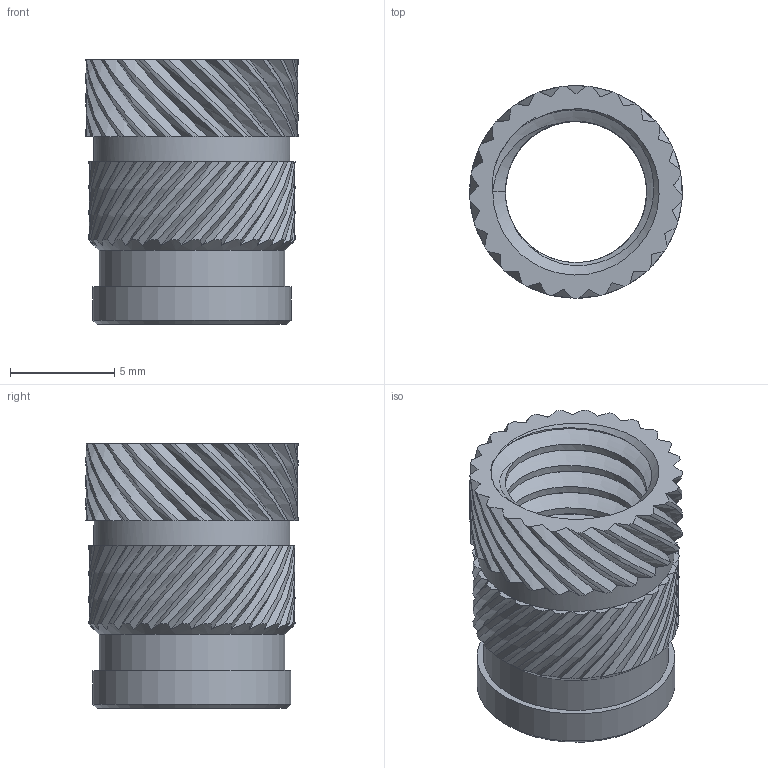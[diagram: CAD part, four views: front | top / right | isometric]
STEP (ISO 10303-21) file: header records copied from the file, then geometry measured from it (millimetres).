
FILE_DESCRIPTION(/* description */ (''),/* implementation_level */ '2;1');
FILE_NAME(/* name */ 'M8_Standard.step',/* time_stamp */ '2023-07-25T17:33:31+02:00',/* author */ (''),/* organization */ (''),/* preprocessor_version */ 'ST-DEVELOPER v19.2',/* originating_system */ 'Autodesk Translation Framework v12.6.0.85',/* authorisation */ '');
FILE_SCHEMA (('AUTOMOTIVE_DESIGN { 1 0 10303 214 3 1 1 }'));
Length unit declared in the file: millimetre
Products named in the file (1): Insert_M8
Bounding box: 10.2 x 10.2 x 12.7 mm (x, y, z)
Volume: 372.3 mm3; surface area: 1023.3 mm2
Topology: 1 solids, 12 shells, 446 faces, 1151 edges, 730 vertices
Faces by surface type: bspline 213, plane 147, cylinder 80, cone 6
Full cylindrical faces by diameter (mm): 6.779 x5, 8.17 x2, 8.9 x1, 9.4 x1, 9.5 x1
Entity records: 17892 total; most frequent: CARTESIAN_POINT 8792, ORIENTED_EDGE 2302, DIRECTION 1161, EDGE_CURVE 1151, VERTEX_POINT 730, B_SPLINE_CURVE_WITH_KNOTS 640, EDGE_LOOP 451, FACE_OUTER_BOUND 446
